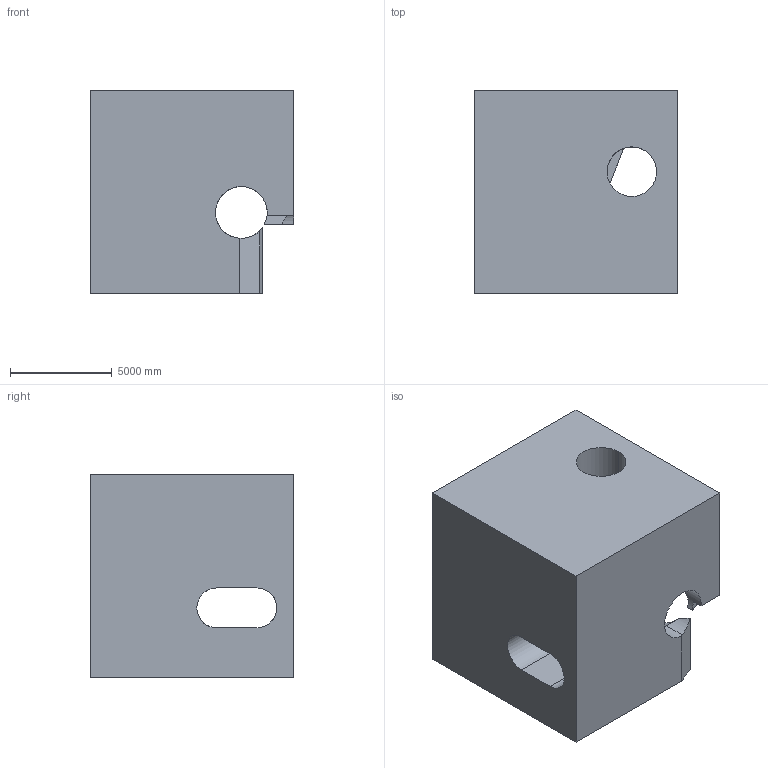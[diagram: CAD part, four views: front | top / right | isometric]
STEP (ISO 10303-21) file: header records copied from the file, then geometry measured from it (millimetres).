
FILE_DESCRIPTION (( 'STEP AP203' ), '1' );
FILE_NAME ('639.STEP', '2022-07-29T12:14:39', ( 'user' ), ( '' ), 'SwSTEP 2.0', 'SolidWorks 2021', '' );
FILE_SCHEMA (( 'CONFIG_CONTROL_DESIGN' ));
Length unit declared in the file: centimetre
Products named in the file (1): 639
Bounding box: 10000 x 10000 x 10000 mm (x, y, z)
Volume: 788548143671.7 mm3; surface area: 711167156.8 mm2
Topology: 1 solids, 1 shells, 37 faces, 111 edges, 74 vertices
Faces by surface type: plane 25, cylinder 12
Entity records: 1962 total; most frequent: CARTESIAN_POINT 911, ORIENTED_EDGE 222, DIRECTION 182, EDGE_CURVE 111, LINE 76, VECTOR 76, VERTEX_POINT 74, AXIS2_PLACEMENT_3D 53
